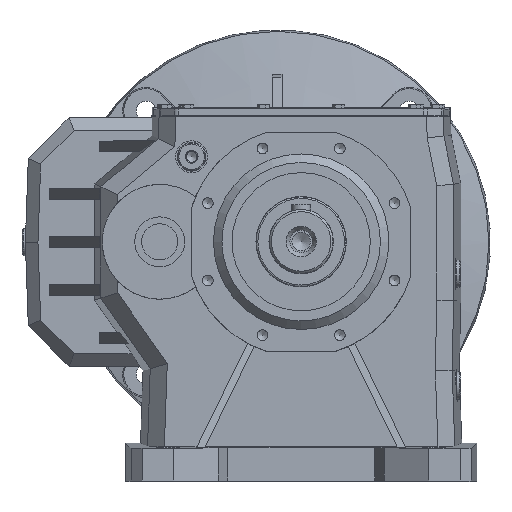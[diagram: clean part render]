
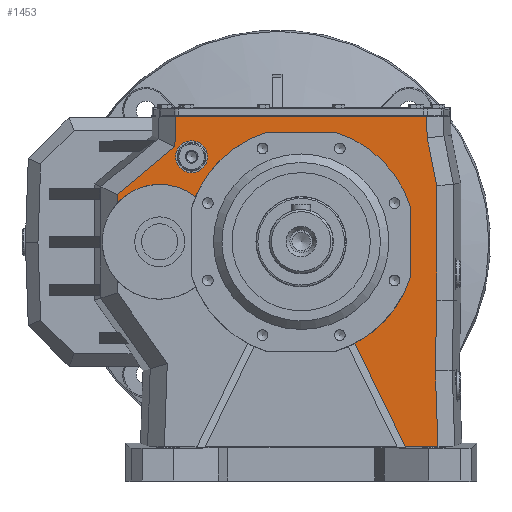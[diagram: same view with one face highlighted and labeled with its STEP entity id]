
A CAD part, top view. The second image highlights one B-rep face of the part: STEP entity #1453.
In plain terms, the highlighted planar face has unit normal (0, 0, 1).
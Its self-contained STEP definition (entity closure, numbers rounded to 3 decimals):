
#1453 = ADVANCED_FACE( '', ( #3841, #3842 ), #3843, .F. );
#3841 = FACE_OUTER_BOUND( '', #7458, .T. );
#3842 = FACE_BOUND( '', #7459, .T. );
#3843 = PLANE( '', #7460 );
#7458 = EDGE_LOOP( '', ( #11975, #11976, #11977, #11978, #11979, #11980, #11981, #11982, #11983, #11984, #11985, #11986, #11987, #11988, #11989, #11990, #11991 ) );
#7459 = EDGE_LOOP( '', ( #11992 ) );
#7460 = AXIS2_PLACEMENT_3D( '', #11993, #11994, #11995 );
#11975 = ORIENTED_EDGE( '', *, *, #19989, .T. );
#11976 = ORIENTED_EDGE( '', *, *, #19990, .T. );
#11977 = ORIENTED_EDGE( '', *, *, #19991, .T. );
#11978 = ORIENTED_EDGE( '', *, *, #19992, .T. );
#11979 = ORIENTED_EDGE( '', *, *, #19993, .T. );
#11980 = ORIENTED_EDGE( '', *, *, #19994, .T. );
#11981 = ORIENTED_EDGE( '', *, *, #19995, .T. );
#11982 = ORIENTED_EDGE( '', *, *, #19996, .T. );
#11983 = ORIENTED_EDGE( '', *, *, #19997, .T. );
#11984 = ORIENTED_EDGE( '', *, *, #19998, .T. );
#11985 = ORIENTED_EDGE( '', *, *, #19345, .F. );
#11986 = ORIENTED_EDGE( '', *, *, #19315, .F. );
#11987 = ORIENTED_EDGE( '', *, *, #19999, .T. );
#11988 = ORIENTED_EDGE( '', *, *, #20000, .T. );
#11989 = ORIENTED_EDGE( '', *, *, #20001, .T. );
#11990 = ORIENTED_EDGE( '', *, *, #20002, .T. );
#11991 = ORIENTED_EDGE( '', *, *, #20003, .T. );
#11992 = ORIENTED_EDGE( '', *, *, #19360, .T. );
#11993 = CARTESIAN_POINT( '', ( 0., 0., -45. ) );
#11994 = DIRECTION( '', ( 0., 0., -1. ) );
#11995 = DIRECTION( '', ( 1., 0., 0. ) );
#19315 = EDGE_CURVE( '', #22792, #22794, #22795, .T. );
#19345 = EDGE_CURVE( '', #22794, #22847, #22848, .F. );
#19360 = EDGE_CURVE( '', #22873, #22873, #22874, .T. );
#19989 = EDGE_CURVE( '', #23915, #23916, #23917, .T. );
#19990 = EDGE_CURVE( '', #23916, #23918, #23919, .F. );
#19991 = EDGE_CURVE( '', #23918, #23920, #23921, .F. );
#19992 = EDGE_CURVE( '', #23920, #23922, #23923, .F. );
#19993 = EDGE_CURVE( '', #23922, #23924, #23925, .T. );
#19994 = EDGE_CURVE( '', #23924, #23926, #23927, .T. );
#19995 = EDGE_CURVE( '', #23926, #23928, #23929, .T. );
#19996 = EDGE_CURVE( '', #23928, #23930, #23931, .T. );
#19997 = EDGE_CURVE( '', #23930, #23932, #23933, .T. );
#19998 = EDGE_CURVE( '', #23932, #22847, #23934, .T. );
#19999 = EDGE_CURVE( '', #22792, #23935, #23936, .F. );
#20000 = EDGE_CURVE( '', #23935, #23937, #23938, .F. );
#20001 = EDGE_CURVE( '', #23937, #23939, #23940, .F. );
#20002 = EDGE_CURVE( '', #23939, #23941, #23942, .F. );
#20003 = EDGE_CURVE( '', #23941, #23915, #23943, .F. );
#22792 = VERTEX_POINT( '', #27787 );
#22794 = VERTEX_POINT( '', #27790 );
#22795 = LINE( '', #27791, #27792 );
#22847 = VERTEX_POINT( '', #27869 );
#22848 = LINE( '', #27870, #27871 );
#22873 = VERTEX_POINT( '', #27904 );
#22874 = CIRCLE( '', #27905, 15. );
#23915 = VERTEX_POINT( '', #29450 );
#23916 = VERTEX_POINT( '', #29451 );
#23917 = LINE( '', #29452, #29453 );
#23918 = VERTEX_POINT( '', #29454 );
#23919 = LINE( '', #29455, #29456 );
#23920 = VERTEX_POINT( '', #29457 );
#23921 = LINE( '', #29458, #29459 );
#23922 = VERTEX_POINT( '', #29460 );
#23923 = LINE( '', #29461, #29462 );
#23924 = VERTEX_POINT( '', #29463 );
#23925 = CIRCLE( '', #29464, 54. );
#23926 = VERTEX_POINT( '', #29465 );
#23927 = CIRCLE( '', #29466, 108. );
#23928 = VERTEX_POINT( '', #29467 );
#23929 = LINE( '', #29468, #29469 );
#23930 = VERTEX_POINT( '', #29470 );
#23931 = CIRCLE( '', #29471, 108. );
#23932 = VERTEX_POINT( '', #29472 );
#23933 = LINE( '', #29473, #29474 );
#23934 = CIRCLE( '', #29475, 108. );
#23935 = VERTEX_POINT( '', #29476 );
#23936 = LINE( '', #29477, #29478 );
#23937 = VERTEX_POINT( '', #29479 );
#23938 = LINE( '', #29480, #29481 );
#23939 = VERTEX_POINT( '', #29482 );
#23940 = LINE( '', #29483, #29484 );
#23941 = VERTEX_POINT( '', #29485 );
#23942 = LINE( '', #29486, #29487 );
#23943 = LINE( '', #29488, #29489 );
#27787 = CARTESIAN_POINT( '', ( 128.647, -192.75, -45. ) );
#27790 = CARTESIAN_POINT( '', ( 97.905, -192.75, -45. ) );
#27791 = CARTESIAN_POINT( '', ( 0., -192.75, -45. ) );
#27792 = VECTOR( '', #35066, 1000. );
#27869 = CARTESIAN_POINT( '', ( 50.465, -95.484, -45. ) );
#27870 = CARTESIAN_POINT( '', ( 98.114, -193.179, -45. ) );
#27871 = VECTOR( '', #35101, 1000. );
#27904 = CARTESIAN_POINT( '', ( -103., 95., -45. ) );
#27905 = AXIS2_PLACEMENT_3D( '', #35119, #35120, #35121 );
#29450 = CARTESIAN_POINT( '', ( 117.795, 118., -45. ) );
#29451 = CARTESIAN_POINT( '', ( -117.795, 118., -45. ) );
#29452 = CARTESIAN_POINT( '', ( 0., 118., -45. ) );
#29453 = VECTOR( '', #35872, 1000. );
#29454 = CARTESIAN_POINT( '', ( -118.788, 89.571, -45. ) );
#29455 = CARTESIAN_POINT( '', ( -121.767, 4.252, -45. ) );
#29456 = VECTOR( '', #35873, 1000. );
#29457 = CARTESIAN_POINT( '', ( -172.495, 44.506, -45. ) );
#29458 = CARTESIAN_POINT( '', ( -93.185, 111.054, -45. ) );
#29459 = VECTOR( '', #35874, 1000. );
#29460 = CARTESIAN_POINT( '', ( -172.495, 36.826, -45. ) );
#29461 = CARTESIAN_POINT( '', ( -172.495, 0., -45. ) );
#29462 = VECTOR( '', #35875, 1000. );
#29463 = CARTESIAN_POINT( '', ( -99.387, 42.263, -45. ) );
#29464 = AXIS2_PLACEMENT_3D( '', #35876, #35877, #35878 );
#29465 = CARTESIAN_POINT( '', ( -32.481, 103., -45. ) );
#29466 = AXIS2_PLACEMENT_3D( '', #35879, #35880, #35881 );
#29467 = CARTESIAN_POINT( '', ( 32.481, 103., -45. ) );
#29468 = CARTESIAN_POINT( '', ( 0., 103., -45. ) );
#29469 = VECTOR( '', #35882, 1000. );
#29470 = CARTESIAN_POINT( '', ( 103., 32.481, -45. ) );
#29471 = AXIS2_PLACEMENT_3D( '', #35883, #35884, #35885 );
#29472 = CARTESIAN_POINT( '', ( 103., -32.481, -45. ) );
#29473 = CARTESIAN_POINT( '', ( 103., 0., -45. ) );
#29474 = VECTOR( '', #35886, 1000. );
#29475 = AXIS2_PLACEMENT_3D( '', #35887, #35888, #35889 );
#29476 = CARTESIAN_POINT( '', ( 126.153, -121.337, -45. ) );
#29477 = CARTESIAN_POINT( '', ( 121.767, 4.252, -45. ) );
#29478 = VECTOR( '', #35890, 1000. );
#29479 = CARTESIAN_POINT( '', ( 127.495, -54.773, -45. ) );
#29480 = CARTESIAN_POINT( '', ( 128.546, -2.591, -45. ) );
#29481 = VECTOR( '', #35891, 1000. );
#29482 = CARTESIAN_POINT( '', ( 127.495, 52.772, -45. ) );
#29483 = CARTESIAN_POINT( '', ( 127.495, 0., -45. ) );
#29484 = VECTOR( '', #35892, 1000. );
#29485 = CARTESIAN_POINT( '', ( 118.502, 97.754, -45. ) );
#29486 = CARTESIAN_POINT( '', ( 132.74, 26.536, -45. ) );
#29487 = VECTOR( '', #35893, 1000. );
#29488 = CARTESIAN_POINT( '', ( 121.767, 4.252, -45. ) );
#29489 = VECTOR( '', #35894, 1000. );
#35066 = DIRECTION( '', ( -1., 0., 0. ) );
#35101 = DIRECTION( '', ( 0.438, -0.899, 0. ) );
#35119 = CARTESIAN_POINT( '', ( -103., 80., -45. ) );
#35120 = DIRECTION( '', ( 0., 0., -1. ) );
#35121 = DIRECTION( '', ( 0., 1., 0. ) );
#35872 = DIRECTION( '', ( -1., 0., 0. ) );
#35873 = DIRECTION( '', ( 0.035, 0.999, 0. ) );
#35874 = DIRECTION( '', ( 0.766, 0.643, 0. ) );
#35875 = DIRECTION( '', ( 0., 1., 0. ) );
#35876 = CARTESIAN_POINT( '', ( -133., 0., -45. ) );
#35877 = DIRECTION( '', ( 0., 0., -1. ) );
#35878 = DIRECTION( '', ( 0., 1., 0. ) );
#35879 = CARTESIAN_POINT( '', ( 0., 0., -45. ) );
#35880 = DIRECTION( '', ( 0., 0., -1. ) );
#35881 = DIRECTION( '', ( 0., 1., 0. ) );
#35882 = DIRECTION( '', ( 1., 0., 0. ) );
#35883 = CARTESIAN_POINT( '', ( 0., 0., -45. ) );
#35884 = DIRECTION( '', ( 0., 0., -1. ) );
#35885 = DIRECTION( '', ( 0., 1., 0. ) );
#35886 = DIRECTION( '', ( 0., -1., 0. ) );
#35887 = CARTESIAN_POINT( '', ( 0., 0., -45. ) );
#35888 = DIRECTION( '', ( 0., 0., -1. ) );
#35889 = DIRECTION( '', ( 0., 1., 0. ) );
#35890 = DIRECTION( '', ( 0.035, -0.999, 0. ) );
#35891 = DIRECTION( '', ( -0.02, -1., 0. ) );
#35892 = DIRECTION( '', ( 0., -1., 0. ) );
#35893 = DIRECTION( '', ( 0.196, -0.981, 0. ) );
#35894 = DIRECTION( '', ( 0.035, -0.999, 0. ) );
